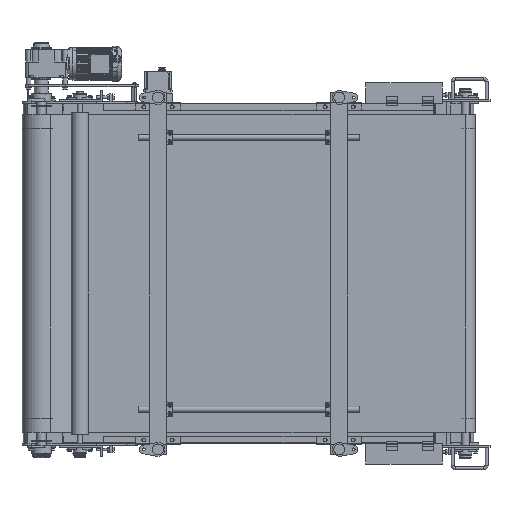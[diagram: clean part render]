
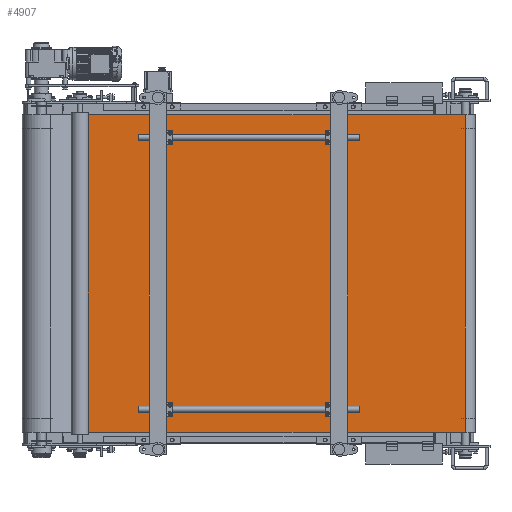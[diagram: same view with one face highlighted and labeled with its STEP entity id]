
A CAD part, front view. The second image highlights one B-rep face of the part: STEP entity #4907.
In plain terms, the highlighted planar face has unit normal (-0.001, -1, 0).
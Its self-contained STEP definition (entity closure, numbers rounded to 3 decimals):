
#4907=ADVANCED_FACE('',(#21533),#21532,.F.);
#21532=PLANE('',#50087);
#21533=FACE_OUTER_BOUND('',#50088,.T.);
#50084=CARTESIAN_POINT('',(245.031,-87.342,710.));
#50085=DIRECTION('',(0.001,1.,0.));
#50086=DIRECTION('',(1.,-0.001,0.));
#50087=AXIS2_PLACEMENT_3D('',#50084,#50085,#50086);
#50088=EDGE_LOOP('',(#71658,#71659,#71660,#71661));
#71658=ORIENTED_EDGE('',*,*,#84724,.T.);
#71659=ORIENTED_EDGE('',*,*,#84739,.F.);
#71660=ORIENTED_EDGE('',*,*,#84708,.F.);
#71661=ORIENTED_EDGE('',*,*,#84740,.T.);
#84708=EDGE_CURVE('',#115926,#115933,#115934,.T.);
#84724=EDGE_CURVE('',#116010,#116038,#116045,.T.);
#84739=EDGE_CURVE('',#115933,#116038,#116144,.T.);
#84740=EDGE_CURVE('',#115926,#116010,#116150,.T.);
#115926=VERTEX_POINT('',#166678);
#115933=VERTEX_POINT('',#166683);
#115934=LINE('',#166684,#166685);
#116010=VERTEX_POINT('',#166732);
#116038=VERTEX_POINT('',#166750);
#116045=LINE('',#166755,#166756);
#116144=LINE('',#166812,#166813);
#116150=LINE('',#166815,#166816);
#166678=CARTESIAN_POINT('',(1955.412,-88.75,-700.));
#166683=CARTESIAN_POINT('',(255.031,-87.35,-700.));
#166684=CARTESIAN_POINT('',(1955.412,-88.75,-700.));
#166685=VECTOR('',#166686,1700.381);
#166686=DIRECTION('',(-1.,0.001,0.));
#166732=CARTESIAN_POINT('',(1955.412,-88.75,700.));
#166750=CARTESIAN_POINT('',(255.031,-87.35,700.));
#166755=CARTESIAN_POINT('',(1955.412,-88.75,700.));
#166756=VECTOR('',#166757,1700.381);
#166757=DIRECTION('',(-1.,0.001,0.));
#166812=CARTESIAN_POINT('',(255.031,-87.35,-700.));
#166813=VECTOR('',#166814,1400.);
#166814=DIRECTION('',(0.,0.,1.));
#166815=CARTESIAN_POINT('',(1955.412,-88.75,-700.));
#166816=VECTOR('',#166817,1400.);
#166817=DIRECTION('',(0.,0.,1.));
